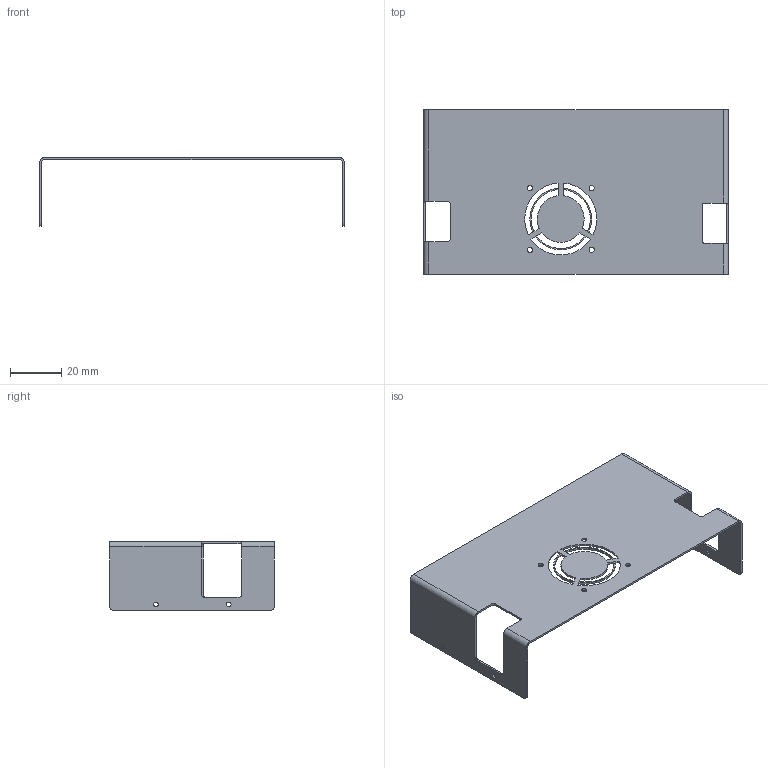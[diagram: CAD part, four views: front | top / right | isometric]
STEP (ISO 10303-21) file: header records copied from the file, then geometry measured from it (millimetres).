
FILE_DESCRIPTION((''),'2;1');
FILE_NAME('ENCLOSURE_WITH_FAN_COVER','2026-09-23T',('Mahadev'),(''),'CREO PARAMETRIC BY PTC INC, 2016050','CREO PARAMETRIC BY PTC INC, 2016050','');
FILE_SCHEMA(('CONFIG_CONTROL_DESIGN'));
Length unit declared in the file: millimetre
Products named in the file (1): ENCLOSURE_WITH_FAN_COVER
Bounding box: 118.55 x 64 x 26.72 mm (x, y, z)
Volume: 7040.8 mm3; surface area: 19779.8 mm2
Topology: 1 solids, 1 shells, 110 faces, 304 edges, 192 vertices
Faces by surface type: cylinder 60, plane 50
Entity records: 3618 total; most frequent: DIRECTION 644, ORIENTED_EDGE 608, CARTESIAN_POINT 606, EDGE_CURVE 304, AXIS2_PLACEMENT_3D 230, VERTEX_POINT 192, VECTOR 184, LINE 184
